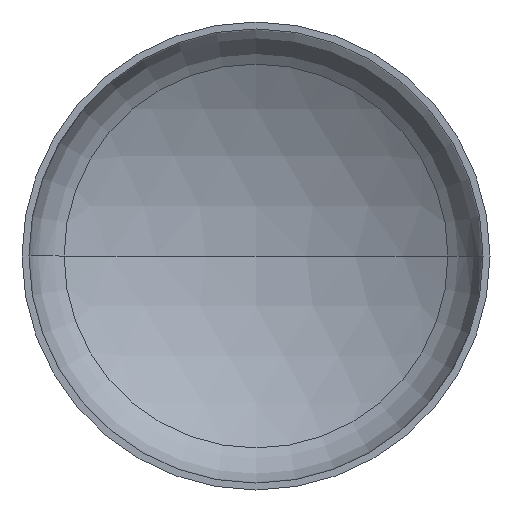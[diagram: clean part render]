
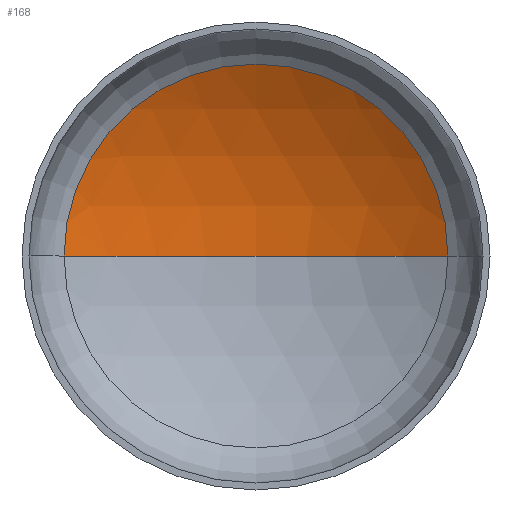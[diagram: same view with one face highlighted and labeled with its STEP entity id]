
A CAD part, front view. The second image highlights one B-rep face of the part: STEP entity #168.
In plain terms, the highlighted spherical face has radius 4000 mm.
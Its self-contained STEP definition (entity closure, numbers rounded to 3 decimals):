
#1 = DIRECTION ( 'NONE',  ( -1., 0., 0. ) ) ;
#3 = CIRCLE ( 'NONE', #36, 2050.774 ) ;
#6 = AXIS2_PLACEMENT_3D ( 'NONE', #333, #207, #261 ) ;
#23 = AXIS2_PLACEMENT_3D ( 'NONE', #169, #157, #177 ) ;
#34 = AXIS2_PLACEMENT_3D ( 'NONE', #296, #118, #1 ) ;
#36 = AXIS2_PLACEMENT_3D ( 'NONE', #164, #146, #148 ) ;
#77 = EDGE_CURVE ( 'NONE', #320, #204, #3, .T. ) ;
#78 = EDGE_CURVE ( 'NONE', #403, #320, #353, .T. ) ;
#102 = FACE_OUTER_BOUND ( 'NONE', #240, .T. ) ;
#105 = CARTESIAN_POINT ( 'NONE',  ( 0., 1346.813, 0. ) ) ;
#118 = DIRECTION ( 'NONE',  ( 0., 0., -1. ) ) ;
#146 = DIRECTION ( 'NONE',  ( 0., -1., 0. ) ) ;
#148 = DIRECTION ( 'NONE',  ( 1., 0., 0. ) ) ;
#157 = DIRECTION ( 'NONE',  ( 0., 0., -1. ) ) ;
#164 = CARTESIAN_POINT ( 'NONE',  ( 0., 781.1, 0. ) ) ;
#168 = ADVANCED_FACE ( 'NONE', ( #102 ), #335, .F. ) ;
#169 = CARTESIAN_POINT ( 'NONE',  ( 0., -2653.187, 0. ) ) ;
#177 = DIRECTION ( 'NONE',  ( -1., 0., 0. ) ) ;
#192 = ORIENTED_EDGE ( 'NONE', *, *, #78, .T. ) ;
#198 = CARTESIAN_POINT ( 'NONE',  ( -2050.774, 781.1, 0. ) ) ;
#204 = VERTEX_POINT ( 'NONE', #198 ) ;
#207 = DIRECTION ( 'NONE',  ( 0., 0., 1. ) ) ;
#240 = EDGE_LOOP ( 'NONE', ( #274, #192, #308 ) ) ;
#261 = DIRECTION ( 'NONE',  ( 1., 0., 0. ) ) ;
#274 = ORIENTED_EDGE ( 'NONE', *, *, #346, .F. ) ;
#296 = CARTESIAN_POINT ( 'NONE',  ( 0., -2653.187, 0. ) ) ;
#308 = ORIENTED_EDGE ( 'NONE', *, *, #77, .T. ) ;
#314 = CIRCLE ( 'NONE', #6, 4000. ) ;
#320 = VERTEX_POINT ( 'NONE', #354 ) ;
#333 = CARTESIAN_POINT ( 'NONE',  ( 0., -2653.187, 0. ) ) ;
#335 = SPHERICAL_SURFACE ( 'NONE', #23, 4000. ) ;
#346 = EDGE_CURVE ( 'NONE', #403, #204, #314, .T. ) ;
#353 = CIRCLE ( 'NONE', #34, 4000. ) ;
#354 = CARTESIAN_POINT ( 'NONE',  ( 2050.774, 781.1, 0. ) ) ;
#403 = VERTEX_POINT ( 'NONE', #105 ) ;
